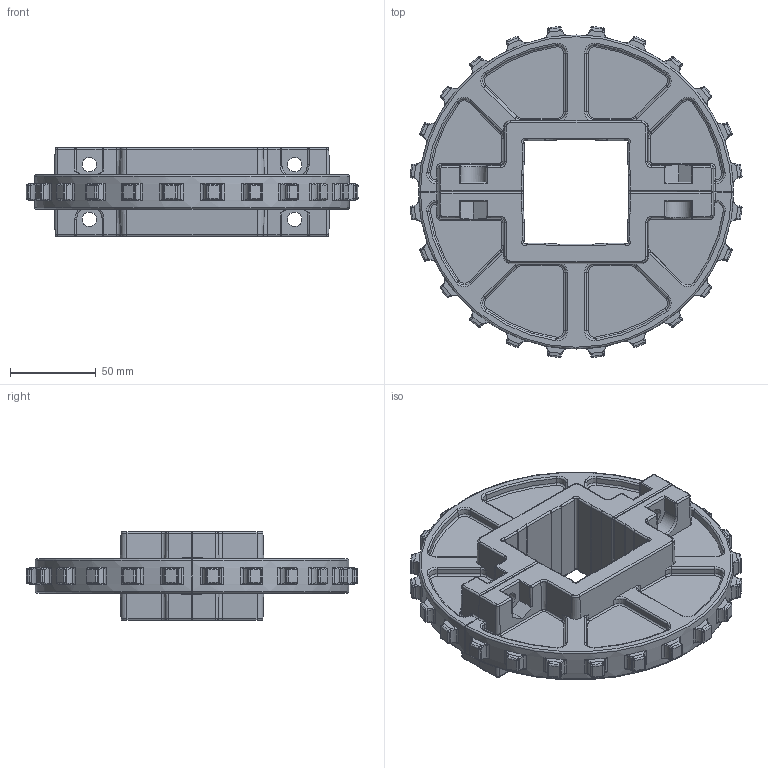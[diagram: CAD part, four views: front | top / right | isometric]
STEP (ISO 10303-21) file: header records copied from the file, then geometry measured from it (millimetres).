
FILE_DESCRIPTION(/* description */ (''),/* implementation_level */ '2;1');
FILE_NAME(/* name */ 'HS-502A-HD-24T.stp',/* time_stamp */ '2025-09-11T17:22:22+08:00',/* author */ (''),/* organization */ (''),/* preprocessor_version */ 'ST-DEVELOPER v15',/* originating_system */ 'SIEMENS PLM Software NX 8.5',/* authorisation */ '');
FILE_SCHEMA (('AP203_CONFIGURATION_CONTROLLED_3D_DESIGN_OF_MECHANICAL_PARTS_AND_ASSEMBLIES_MIM_LF { 1 0 10303 403 2 1 2}'));
Products named in the file (1): Admi2A205363713c
Bounding box: 194.06 x 193.57 x 52 mm (x, y, z)
Volume: 514545.1 mm3; surface area: 110978.4 mm2
Topology: 2 solids, 2 shells, 1638 faces, 4020 edges, 2268 vertices
Faces by surface type: cylinder 526, bspline 514, plane 286, torus 202, cone 96, sphere 14
Full cylindrical faces by diameter (mm): 8.5 x8
Entity records: 57857 total; most frequent: CARTESIAN_POINT 22445, ORIENTED_EDGE 7740, DIRECTION 7198, EDGE_CURVE 3870, AXIS2_PLACEMENT_3D 2981, VERTEX_POINT 2268, EDGE_LOOP 1686, ADVANCED_FACE 1638
